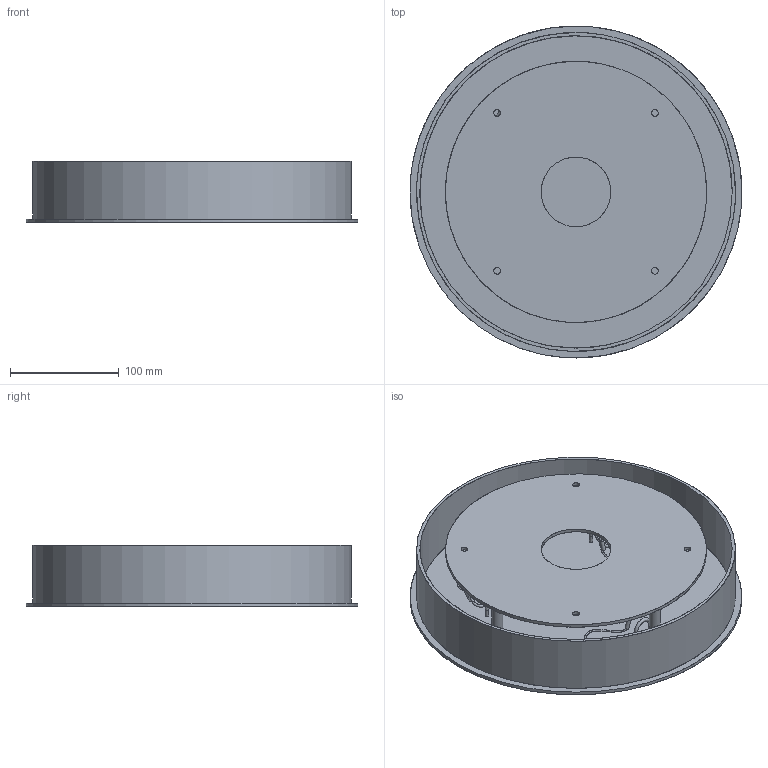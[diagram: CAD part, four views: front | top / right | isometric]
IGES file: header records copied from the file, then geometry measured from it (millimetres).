
Global section: file name: /Users/danielszollosi/Documents/SkLO/DEVELOPMENT/LIGHT 2024/MULTIPENDANT CANOPIES/Round Multipendant Canopies/SkLO_Round_Canopy_12_MCR12/3D/SkLO_Round_Canopy_12_MCR12_3D.igs; native system: Rhinoceros ( Sep 24 2023 ); preprocessor: Trout Lake IGES 012 Sep 24 2023; date: 241018.212308; units: millimetre
Bounding box: 305 x 305 x 56.3 mm (x, y, z)
Surface area: 354402.6 mm2 (no closed solid volume)
Topology: 0 solids, 0 shells, 179 faces, 1014 edges, 928 vertices
Faces by surface type: bspline 179
